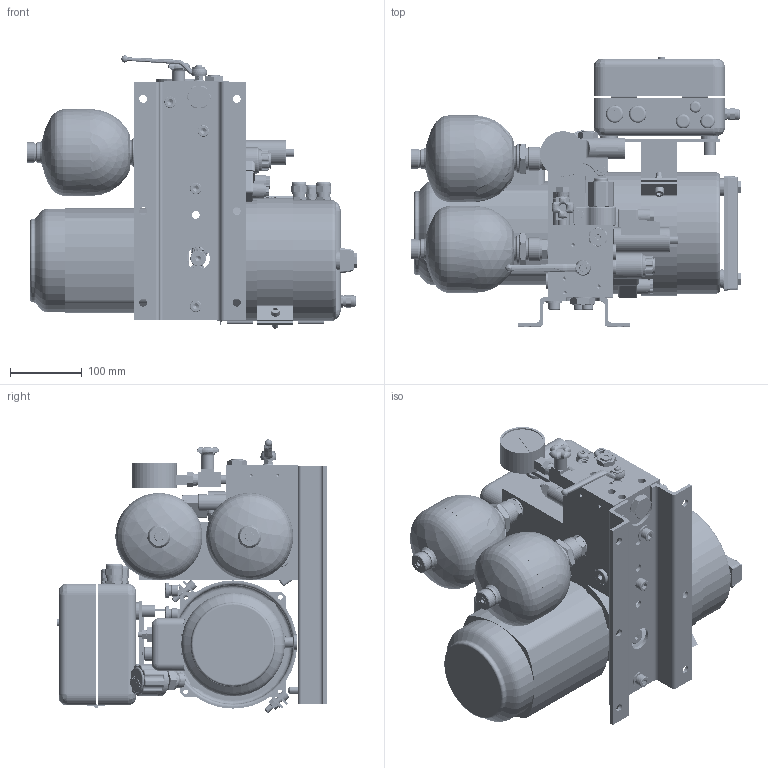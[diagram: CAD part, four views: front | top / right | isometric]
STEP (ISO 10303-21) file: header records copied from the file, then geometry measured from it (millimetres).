
FILE_DESCRIPTION((''),'2;1');
FILE_NAME('12704-ENS-15_STEP_CENTRALE_CO2R_ASM','2021-12-17T',('BOLS'),(''),'CREO PARAMETRIC BY PTC INC, 2018360','CREO PARAMETRIC BY PTC INC, 2018360','');
FILE_SCHEMA(('CONFIG_CONTROL_DESIGN'));
Products named in the file (118): IMPORT_E71; IMPORT_E44; IMPORT_E66; IMPORT_E54; IMPORT_E75; IMPORT_E14; IMPORT_E89; IMPORT_E9; IMPORT_E116; IMPORT_E112; IMPORT_E64; IMPORT_E113; IMPORT_E58; IMPORT_E61; IMPORT_E16; IMPORT_E110; IMPORT_E32; IMPORT_E13; IMPORT_E98; IMPORT_E51; IMPORT_E91; IMPORT_E19; IMPORT_E111; IMPORT_E78; IMPORT_E34; IMPORT_E39; IMPORT_E124; IMPORT_E35; IMPORT_E123; IMPORT_E43; IMPORT_E28; IMPORT_E36; IMPORT_E49; IMPORT_E1; IMPORT_E121; IMPORT_E41; IMPORT_E95; IMPORT_E27; IMPORT_E85; IMPORT_E11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
Assembly tree (117 placements, depth 3):
  12704-ENS-15_STEP_CENTRALE_CO2R_ASM
    12704-ENS-15_STEP_CENTRALE_CO_1_ASM
      IMPORT_E71
      IMPORT_E44
      IMPORT_E66
      IMPORT_E54
      IMPORT_E75
      IMPORT_E14
      IMPORT_E89
      IMPORT_E9
      IMPORT_E116
      IMPORT_E112
      IMPORT_E64
      IMPORT_E113
      IMPORT_E58
      IMPORT_E61
      IMPORT_E16
      IMPORT_E110
      IMPORT_E32
      IMPORT_E13
      IMPORT_E98
      IMPORT_E51
      IMPORT_E91
      IMPORT_E19
      IMPORT_E111
      IMPORT_E78
      IMPORT_E34
      IMPORT_E39
      IMPORT_E124
      IMPORT_E35
      IMPORT_E123
      IMPORT_E43
      IMPORT_E28
      IMPORT_E36
      IMPORT_E49
      IMPORT_E1
      IMPORT_E121
      IMPORT_E41
      IMPORT_E95
      IMPORT_E27
      IMPORT_E85
      IMPORT_E11
      IMPORT_E100
      IMPORT_E86
      IMPORT_E55
      IMPORT_E118
      IMPORT_E10
      IMPORT_E25
      IMPORT_E7
      IMPORT_E59
      IMPORT_E57
      IMPORT_E73
      IMPORT_E120
      IMPORT_E88
      IMPORT_E106
      IMPORT_E37
      IMPORT_E2
      IMPORT_E125
      IMPORT_E107
      IMPORT_E92
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Bounding box: 459.35 x 374 x 379.61 mm (x, y, z)
Volume: 8081999.8 mm3; surface area: 1669697.1 mm2
Topology: 114 solids, 116 shells, 6122 faces, 15455 edges, 9717 vertices
Faces by surface type: cylinder 2068, plane 1691, cone 1022, torus 957, bspline 232, extrusion 108, sphere 40, revolution 4
Entity records: 272643 total; most frequent: CARTESIAN_POINT 74507, DIRECTION 33173, ORIENTED_EDGE 30519, PRESENTATION_STYLE_ASSIGNMENT 15381, STYLED_ITEM 15381, CURVE_STYLE 15265, EDGE_CURVE 15265, AXIS2_PLACEMENT_3D 13765
